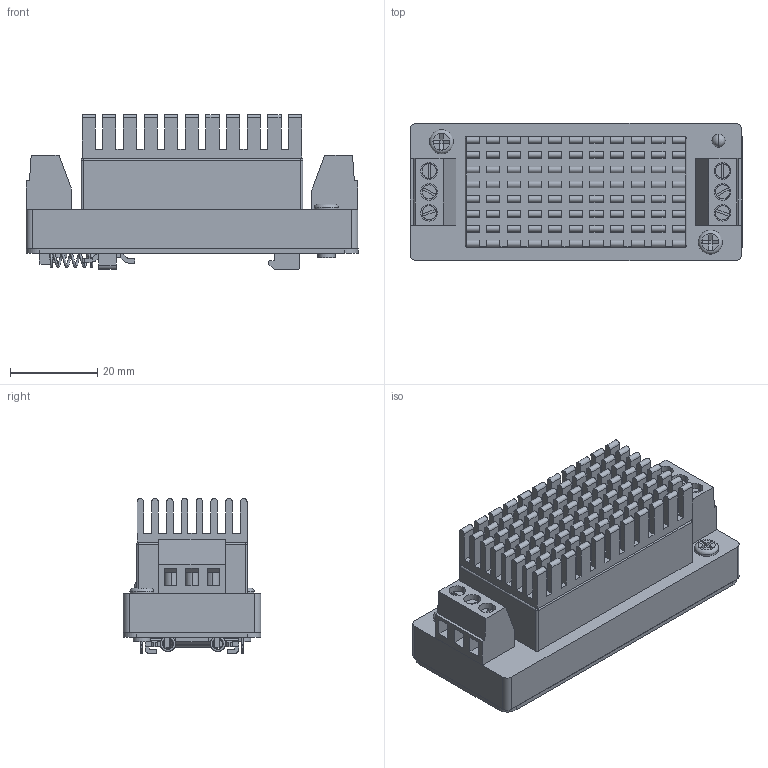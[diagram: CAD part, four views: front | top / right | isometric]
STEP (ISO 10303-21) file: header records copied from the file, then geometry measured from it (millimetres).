
FILE_DESCRIPTION(/* description */ (''),/* implementation_level */ '2;1');
FILE_NAME(/* name */ 'FD60-XXSXXB3R2(TSH).stp',/* time_stamp */ '2025-09-09T10:37:12+08:00',/* author */ (''),/* organization */ (''),/* preprocessor_version */ 'ST-DEVELOPER v16',/* originating_system */ 'SIEMENS PLM Software NX 10.0',/* authorisation */ '123');
FILE_SCHEMA (('AUTOMOTIVE_DESIGN { 1 0 10303 214 3 1 1 1 }'));
Products named in the file (1): admi9E78CA83aq42
Bounding box: 76.05 x 31.51 x 35.5 mm (x, y, z)
Volume: 47791.3 mm3; surface area: 29935.2 mm2
Topology: 23 solids, 23 shells, 902 faces, 2324 edges, 1548 vertices
Faces by surface type: plane 633, cylinder 216, extrusion 16, bspline 15, sphere 12, torus 6, cone 4
Full cylindrical faces by diameter (mm): 1 x12, 3 x42, 3.995 x2, 5.5 x2
Entity records: 45275 total; most frequent: CARTESIAN_POINT 23441, ORIENTED_EDGE 4254, DIRECTION 4099, EDGE_CURVE 2127, VECTOR 1623, LINE 1607, VERTEX_POINT 1401, AXIS2_PLACEMENT_3D 1238
